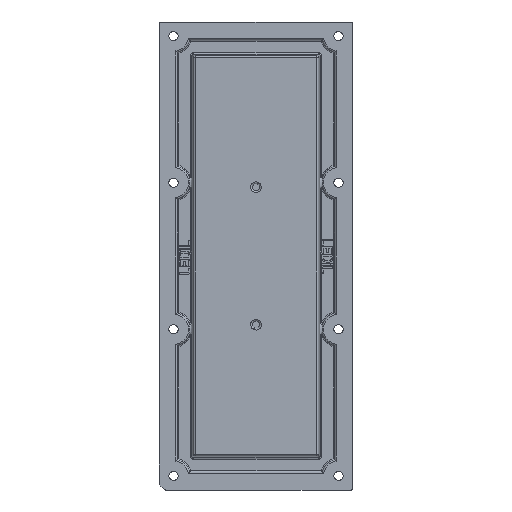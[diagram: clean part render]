
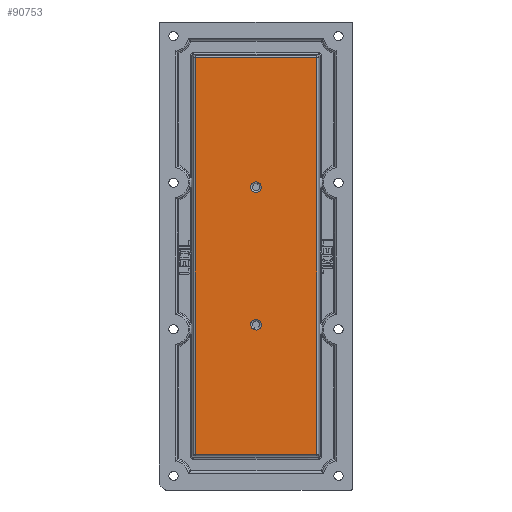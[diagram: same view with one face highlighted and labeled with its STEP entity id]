
A CAD part, top view. The second image highlights one B-rep face of the part: STEP entity #90753.
In plain terms, the highlighted planar face has unit normal (0, 0, 1).
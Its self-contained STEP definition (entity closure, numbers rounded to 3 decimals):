
#75786=CARTESIAN_POINT('Vertex',(-35.225,136.825,9.066)) ;
#75793=CARTESIAN_POINT('Vertex',(-35.225,-9.825,9.066)) ;
#75796=CARTESIAN_POINT('Line Origine',(-35.225,67.087,9.066)) ;
#78309=CARTESIAN_POINT('Vertex',(9.825,-9.825,9.066)) ;
#78316=CARTESIAN_POINT('Vertex',(9.825,136.825,9.066)) ;
#78319=CARTESIAN_POINT('Line Origine',(9.825,63.5,9.066)) ;
#88752=CARTESIAN_POINT('Line Origine',(-12.7,136.825,9.066)) ;
#88769=CARTESIAN_POINT('Line Origine',(-12.7,-9.825,9.066)) ;
#90580=CARTESIAN_POINT('Vertex',(-13.645,87.17,9.066)) ;
#90602=CARTESIAN_POINT('Vertex',(-11.755,90.63,9.066)) ;
#90605=CARTESIAN_POINT('Axis2P3D Location',(-12.7,88.9,9.066)) ;
#90633=CARTESIAN_POINT('Axis2P3D Location',(-12.7,88.9,9.066)) ;
#90664=CARTESIAN_POINT('Vertex',(-13.645,36.37,9.066)) ;
#90686=CARTESIAN_POINT('Vertex',(-11.755,39.83,9.066)) ;
#90689=CARTESIAN_POINT('Axis2P3D Location',(-12.7,38.1,9.066)) ;
#90717=CARTESIAN_POINT('Axis2P3D Location',(-12.7,38.1,9.066)) ;
#90734=CARTESIAN_POINT('Axis2P3D Location',(0.,-10.,9.066)) ;
#75797=DIRECTION('Vector Direction',(0.,-1.,0.)) ;
#78320=DIRECTION('Vector Direction',(0.,-1.,0.)) ;
#88753=DIRECTION('Vector Direction',(-1.,0.,0.)) ;
#88770=DIRECTION('Vector Direction',(-1.,0.,0.)) ;
#90606=DIRECTION('Axis2P3D Direction',(0.,-0.,-1.)) ;
#90634=DIRECTION('Axis2P3D Direction',(-0.,0.,-1.)) ;
#90690=DIRECTION('Axis2P3D Direction',(0.,-0.,-1.)) ;
#90718=DIRECTION('Axis2P3D Direction',(-0.,0.,-1.)) ;
#90735=DIRECTION('Axis2P3D Direction',(0.,0.,-1.)) ;
#90736=DIRECTION('Axis2P3D XDirection',(0.,1.,0.)) ;
#90607=AXIS2_PLACEMENT_3D('Circle Axis2P3D',#90605,#90606,$) ;
#90635=AXIS2_PLACEMENT_3D('Circle Axis2P3D',#90633,#90634,$) ;
#90691=AXIS2_PLACEMENT_3D('Circle Axis2P3D',#90689,#90690,$) ;
#90719=AXIS2_PLACEMENT_3D('Circle Axis2P3D',#90717,#90718,$) ;
#90737=AXIS2_PLACEMENT_3D('Plane Axis2P3D',#90734,#90735,#90736) ;
#90740=ORIENTED_EDGE('',*,*,#75800,.T.) ;
#90741=ORIENTED_EDGE('',*,*,#88773,.T.) ;
#90742=ORIENTED_EDGE('',*,*,#78323,.T.) ;
#90743=ORIENTED_EDGE('',*,*,#88756,.T.) ;
#90746=ORIENTED_EDGE('',*,*,#90637,.T.) ;
#90747=ORIENTED_EDGE('',*,*,#90609,.T.) ;
#90750=ORIENTED_EDGE('',*,*,#90693,.T.) ;
#90751=ORIENTED_EDGE('',*,*,#90721,.T.) ;
#90748=FACE_BOUND('',#90745,.T.) ;
#90752=FACE_BOUND('',#90749,.T.) ;
#75798=VECTOR('Line Direction',#75797,1.) ;
#78321=VECTOR('Line Direction',#78320,1.) ;
#88754=VECTOR('Line Direction',#88753,1.) ;
#88771=VECTOR('Line Direction',#88770,1.) ;
#90753=ADVANCED_FACE('HB-WWW',(#90744,#90748,#90752),#90738,.F.) ;
#90608=CIRCLE('generated circle',#90607,1.971) ;
#90636=CIRCLE('generated circle',#90635,1.971) ;
#90692=CIRCLE('generated circle',#90691,1.971) ;
#90720=CIRCLE('generated circle',#90719,1.971) ;
#75800=EDGE_CURVE('',#75787,#75794,#75799,.T.) ;
#78323=EDGE_CURVE('',#78310,#78317,#78322,.F.) ;
#88756=EDGE_CURVE('',#78317,#75787,#88755,.T.) ;
#88773=EDGE_CURVE('',#75794,#78310,#88772,.F.) ;
#90609=EDGE_CURVE('',#90581,#90603,#90608,.T.) ;
#90637=EDGE_CURVE('',#90603,#90581,#90636,.T.) ;
#90693=EDGE_CURVE('',#90665,#90687,#90692,.T.) ;
#90721=EDGE_CURVE('',#90687,#90665,#90720,.T.) ;
#90739=EDGE_LOOP('',(#90740,#90741,#90742,#90743)) ;
#90745=EDGE_LOOP('',(#90746,#90747)) ;
#90749=EDGE_LOOP('',(#90750,#90751)) ;
#90744=FACE_OUTER_BOUND('',#90739,.T.) ;
#75799=LINE('Line',#75796,#75798) ;
#78322=LINE('Line',#78319,#78321) ;
#88755=LINE('Line',#88752,#88754) ;
#88772=LINE('Line',#88769,#88771) ;
#90738=PLANE('',#90737) ;
#75787=VERTEX_POINT('',#75786) ;
#75794=VERTEX_POINT('',#75793) ;
#78310=VERTEX_POINT('',#78309) ;
#78317=VERTEX_POINT('',#78316) ;
#90581=VERTEX_POINT('',#90580) ;
#90603=VERTEX_POINT('',#90602) ;
#90665=VERTEX_POINT('',#90664) ;
#90687=VERTEX_POINT('',#90686) ;
